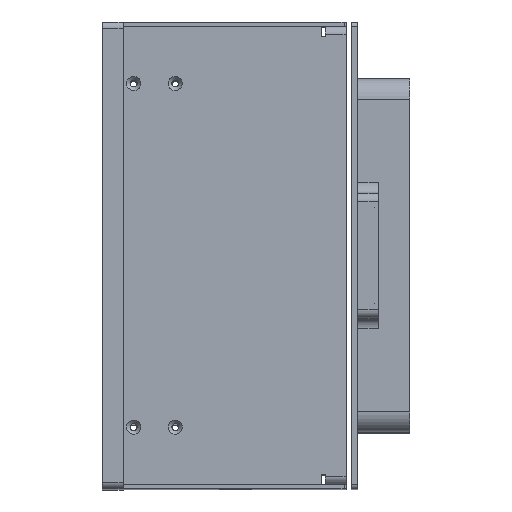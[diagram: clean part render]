
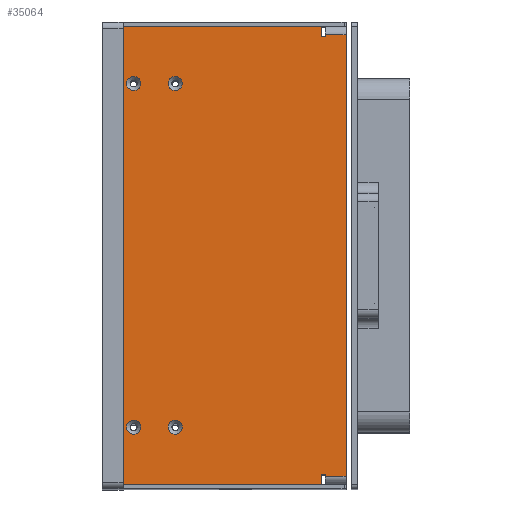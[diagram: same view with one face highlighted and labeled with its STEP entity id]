
A CAD part, top view. The second image highlights one B-rep face of the part: STEP entity #35064.
In plain terms, the highlighted planar face has unit normal (0, 0, 1) as drawn and (-1, 0, 0) by its records, which use the part's own axes.
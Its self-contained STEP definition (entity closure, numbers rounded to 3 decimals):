
#562=CIRCLE('',#36937,3.4);
#565=CIRCLE('',#36942,3.4);
#568=CIRCLE('',#36947,3.4);
#571=CIRCLE('',#36952,3.4);
#918=FACE_BOUND('',#5645,.T.);
#919=FACE_BOUND('',#5646,.T.);
#920=FACE_BOUND('',#5647,.T.);
#921=FACE_BOUND('',#5648,.T.);
#1856=PLANE('',#36984);
#3560=FACE_OUTER_BOUND('',#5644,.T.);
#5644=EDGE_LOOP('',(#30086,#30087,#30088,#30089,#30090,#30091,#30092,#30093,
#30094,#30095,#30096,#30097));
#5645=EDGE_LOOP('',(#30098));
#5646=EDGE_LOOP('',(#30099));
#5647=EDGE_LOOP('',(#30100));
#5648=EDGE_LOOP('',(#30101));
#8820=LINE('',#58609,#12156);
#8825=LINE('',#58626,#12161);
#8829=LINE('',#58634,#12165);
#8832=LINE('',#58639,#12168);
#8834=LINE('',#58643,#12170);
#8835=LINE('',#58645,#12171);
#8836=LINE('',#58647,#12172);
#8837=LINE('',#58649,#12173);
#8838=LINE('',#58651,#12174);
#8839=LINE('',#58653,#12175);
#8840=LINE('',#58655,#12176);
#8841=LINE('',#58656,#12177);
#12156=VECTOR('',#42781,10.);
#12161=VECTOR('',#42802,10.);
#12165=VECTOR('',#42808,10.);
#12168=VECTOR('',#42813,10.);
#12170=VECTOR('',#42817,10.);
#12171=VECTOR('',#42818,10.);
#12172=VECTOR('',#42819,10.);
#12173=VECTOR('',#42820,10.);
#12174=VECTOR('',#42821,10.);
#12175=VECTOR('',#42822,10.);
#12176=VECTOR('',#42823,10.);
#12177=VECTOR('',#42824,10.);
#16505=VERTEX_POINT('',#58519);
#16508=VERTEX_POINT('',#58529);
#16511=VERTEX_POINT('',#58539);
#16514=VERTEX_POINT('',#58549);
#16533=VERTEX_POINT('',#58606);
#16534=VERTEX_POINT('',#58608);
#16537=VERTEX_POINT('',#58624);
#16538=VERTEX_POINT('',#58625);
#16541=VERTEX_POINT('',#58633);
#16543=VERTEX_POINT('',#58642);
#16544=VERTEX_POINT('',#58644);
#16545=VERTEX_POINT('',#58646);
#16546=VERTEX_POINT('',#58648);
#16547=VERTEX_POINT('',#58650);
#16548=VERTEX_POINT('',#58652);
#16549=VERTEX_POINT('',#58654);
#21078=EDGE_CURVE('',#16505,#16505,#562,.T.);
#21083=EDGE_CURVE('',#16508,#16508,#565,.T.);
#21088=EDGE_CURVE('',#16511,#16511,#568,.T.);
#21093=EDGE_CURVE('',#16514,#16514,#571,.T.);
#21122=EDGE_CURVE('',#16534,#16533,#8820,.T.);
#21130=EDGE_CURVE('',#16537,#16538,#8825,.T.);
#21134=EDGE_CURVE('',#16541,#16534,#8829,.T.);
#21137=EDGE_CURVE('',#16538,#16541,#8832,.T.);
#21139=EDGE_CURVE('',#16543,#16533,#8834,.T.);
#21140=EDGE_CURVE('',#16543,#16544,#8835,.T.);
#21141=EDGE_CURVE('',#16544,#16545,#8836,.T.);
#21142=EDGE_CURVE('',#16545,#16546,#8837,.T.);
#21143=EDGE_CURVE('',#16546,#16547,#8838,.T.);
#21144=EDGE_CURVE('',#16548,#16547,#8839,.T.);
#21145=EDGE_CURVE('',#16549,#16548,#8840,.T.);
#21146=EDGE_CURVE('',#16537,#16549,#8841,.T.);
#30086=ORIENTED_EDGE('',*,*,#21130,.T.);
#30087=ORIENTED_EDGE('',*,*,#21137,.T.);
#30088=ORIENTED_EDGE('',*,*,#21134,.T.);
#30089=ORIENTED_EDGE('',*,*,#21122,.T.);
#30090=ORIENTED_EDGE('',*,*,#21139,.F.);
#30091=ORIENTED_EDGE('',*,*,#21140,.T.);
#30092=ORIENTED_EDGE('',*,*,#21141,.T.);
#30093=ORIENTED_EDGE('',*,*,#21142,.T.);
#30094=ORIENTED_EDGE('',*,*,#21143,.T.);
#30095=ORIENTED_EDGE('',*,*,#21144,.F.);
#30096=ORIENTED_EDGE('',*,*,#21145,.F.);
#30097=ORIENTED_EDGE('',*,*,#21146,.F.);
#30098=ORIENTED_EDGE('',*,*,#21078,.T.);
#30099=ORIENTED_EDGE('',*,*,#21083,.T.);
#30100=ORIENTED_EDGE('',*,*,#21088,.T.);
#30101=ORIENTED_EDGE('',*,*,#21093,.T.);
#35064=ADVANCED_FACE('',(#3560,#918,#919,#920,#921),#1856,.F.);
#36937=AXIS2_PLACEMENT_3D('',#58520,#42684,#42685);
#36942=AXIS2_PLACEMENT_3D('',#58530,#42696,#42697);
#36947=AXIS2_PLACEMENT_3D('',#58540,#42708,#42709);
#36952=AXIS2_PLACEMENT_3D('',#58550,#42720,#42721);
#36984=AXIS2_PLACEMENT_3D('',#58641,#42815,#42816);
#42684=DIRECTION('center_axis',(1.,0.,0.));
#42685=DIRECTION('ref_axis',(0.,0.,1.));
#42696=DIRECTION('center_axis',(1.,0.,0.));
#42697=DIRECTION('ref_axis',(0.,0.,1.));
#42708=DIRECTION('center_axis',(1.,0.,0.));
#42709=DIRECTION('ref_axis',(0.,0.,1.));
#42720=DIRECTION('center_axis',(1.,0.,0.));
#42721=DIRECTION('ref_axis',(0.,0.,1.));
#42781=DIRECTION('',(0.,1.,0.));
#42802=DIRECTION('',(0.,0.,-1.));
#42808=DIRECTION('',(0.,0.,1.));
#42813=DIRECTION('',(0.,1.,0.));
#42815=DIRECTION('center_axis',(1.,0.,0.));
#42816=DIRECTION('ref_axis',(0.,0.,-1.));
#42817=DIRECTION('',(0.,0.,1.));
#42818=DIRECTION('',(0.,-1.,0.));
#42819=DIRECTION('',(0.,0.,1.));
#42820=DIRECTION('',(0.,-1.,0.));
#42821=DIRECTION('',(0.,0.,-1.));
#42822=DIRECTION('',(0.,1.,0.));
#42823=DIRECTION('',(0.,0.,-1.));
#42824=DIRECTION('',(0.,-1.,0.));
#58519=CARTESIAN_POINT('',(0.,-28.5,-85.9));
#58520=CARTESIAN_POINT('Origin',(0.,-28.5,-82.5));
#58529=CARTESIAN_POINT('',(0.,-48.5,-85.9));
#58530=CARTESIAN_POINT('Origin',(0.,-48.5,-82.5));
#58539=CARTESIAN_POINT('',(0.,-48.5,79.1));
#58540=CARTESIAN_POINT('Origin',(0.,-48.5,82.5));
#58549=CARTESIAN_POINT('',(0.,-28.5,79.1));
#58550=CARTESIAN_POINT('Origin',(0.,-28.5,82.5));
#58606=CARTESIAN_POINT('',(0.,53.5,106.));
#58608=CARTESIAN_POINT('',(0.,43.5,106.));
#58609=CARTESIAN_POINT('',(0.,26.75,106.));
#58624=CARTESIAN_POINT('',(0.,41.5,110.));
#58625=CARTESIAN_POINT('',(0.,41.5,105.));
#58626=CARTESIAN_POINT('',(0.,41.5,52.5));
#58633=CARTESIAN_POINT('',(0.,43.5,105.));
#58634=CARTESIAN_POINT('',(0.,43.5,55.));
#58639=CARTESIAN_POINT('',(0.,21.75,105.));
#58641=CARTESIAN_POINT('Origin',(0.,0.,0.));
#58642=CARTESIAN_POINT('',(0.,53.5,-106.));
#58643=CARTESIAN_POINT('',(0.,53.5,-110.));
#58644=CARTESIAN_POINT('',(0.,43.5,-106.));
#58645=CARTESIAN_POINT('',(0.,26.75,-106.));
#58646=CARTESIAN_POINT('',(0.,43.5,-105.));
#58647=CARTESIAN_POINT('',(0.,43.5,-55.));
#58648=CARTESIAN_POINT('',(0.,41.5,-105.));
#58649=CARTESIAN_POINT('',(0.,21.75,-105.));
#58650=CARTESIAN_POINT('',(0.,41.5,-110.));
#58651=CARTESIAN_POINT('',(0.,41.5,-52.5));
#58652=CARTESIAN_POINT('',(0.,-53.5,-110.));
#58653=CARTESIAN_POINT('',(0.,-53.5,-110.));
#58654=CARTESIAN_POINT('',(0.,-53.5,110.));
#58655=CARTESIAN_POINT('',(0.,-53.5,110.));
#58656=CARTESIAN_POINT('',(0.,53.5,110.));
